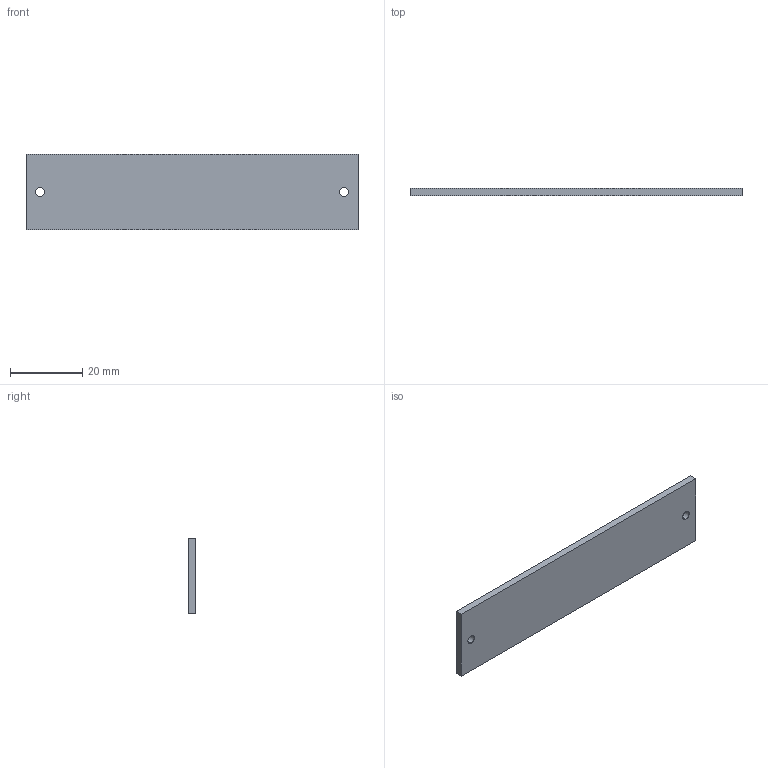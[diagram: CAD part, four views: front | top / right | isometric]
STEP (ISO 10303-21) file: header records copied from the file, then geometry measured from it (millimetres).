
FILE_DESCRIPTION (( 'STEP AP214' ), '1' );
FILE_NAME ('LBRX-00-080-3-DIFFUSER.STEP', '2021-11-05T05:20:10', ( '' ), ( '' ), 'SwSTEP 2.0', 'SolidWorks 2021', '' );
FILE_SCHEMA (( 'AUTOMOTIVE_DESIGN' ));
Length unit declared in the file: millimetre
Products named in the file (1): LBRX-00-080-3-DIFFUSER
Bounding box: 92 x 2 x 21 mm (x, y, z)
Volume: 3844.4 mm3; surface area: 4327.8 mm2
Topology: 1 solids, 1 shells, 10 faces, 24 edges, 16 vertices
Faces by surface type: plane 6, cylinder 4
Entity records: 338 total; most frequent: DIRECTION 54, CARTESIAN_POINT 51, ORIENTED_EDGE 48, EDGE_CURVE 24, AXIS2_PLACEMENT_3D 19, VECTOR 16, LINE 16, VERTEX_POINT 16
